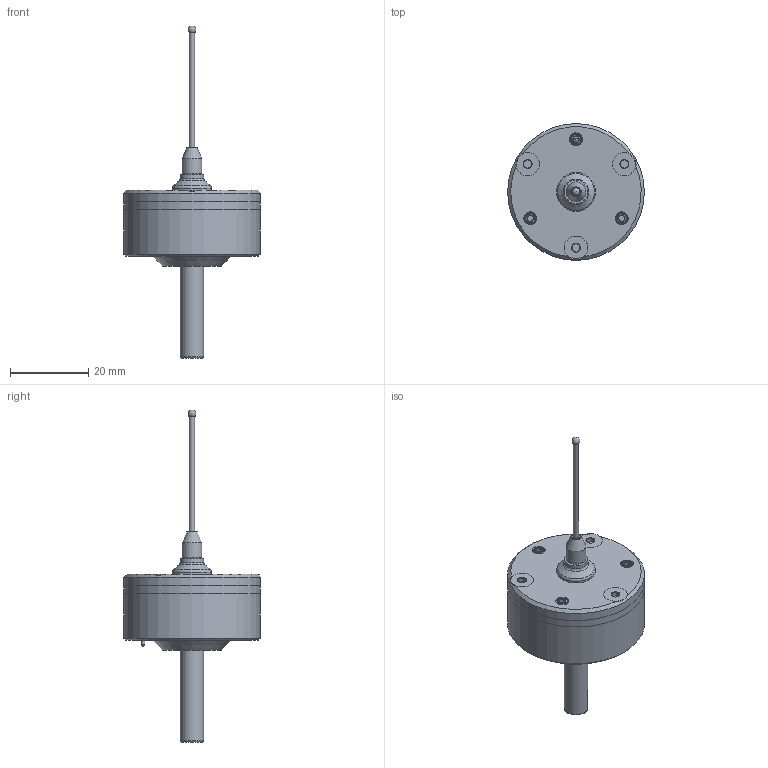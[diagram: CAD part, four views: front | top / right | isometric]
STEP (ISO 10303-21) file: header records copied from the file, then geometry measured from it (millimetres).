
FILE_DESCRIPTION(/* description */ (''),/* implementation_level */ '2;1');
FILE_NAME(/* name */ 'DIG3D.LP.M.step',/* time_stamp */ '2025-04-19T13:01:13+02:00',/* author */ (''),/* organization */ (''),/* preprocessor_version */ 'ST-DEVELOPER v20.1',/* originating_system */ 'Autodesk Translation Framework v14.4.0.0',/* authorisation */ '');
FILE_SCHEMA (('AUTOMOTIVE_DESIGN { 1 0 10303 214 3 1 1 }'));
Length unit declared in the file: millimetre
Products named in the file (14): DIG3D.LP.M mk2 - solid; Body; Resin infill; Magnet; Osa; M2.5 extender 10mm; silicon_4mm; Component1; M2.5tip; 91294A132_Black-Oxide Alloy Steel Hex Drive Flat Head Screw; pogo_out; Component19; BodyD; 91390A100_Alloy Steel Cup-Point Set Screw
Assembly tree (20 placements, depth 3):
  DIG3D.LP.M mk2 - solid
    Body
    Resin infill
    Magnet  x2
    Osa
    pogo_out  x3
    M2.5 extender 10mm
    silicon_4mm
      Component1
    M2.5tip
    91294A132_Black-Oxide Alloy Steel Hex Drive Flat Head Screw  x3
    Component19
    BodyD
    91390A100_Alloy Steel Cup-Point Set Screw  x3
Bounding box: 35 x 35 x 85 mm (x, y, z)
Volume: 17357.1 mm3; surface area: 11492 mm2
Topology: 37 solids, 37 shells, 957 faces, 2486 edges, 1615 vertices
Faces by surface type: bspline 391, cylinder 281, plane 193, cone 73, torus 17, sphere 2
Full cylindrical faces by diameter (mm): 0.8 x3, 0.9 x3, 1.35 x1, 1.5 x6, 2 x3, 2.075 x7, 2.35 x90, 2.43 x1, 2.5 x4, 2.58 x4, 3 x93, 4 x2, 5 x4, 5.1 x1, 5.95 x3, 6 x4, 7.4 x1, 10 x2, 12 x1, 35 x3
Entity records: 31954 total; most frequent: CARTESIAN_POINT 16859, ORIENTED_EDGE 3720, EDGE_CURVE 1860, DIRECTION 1794, VERTEX_POINT 1226, B_SPLINE_CURVE_WITH_KNOTS 888, EDGE_LOOP 764, LINE 710
